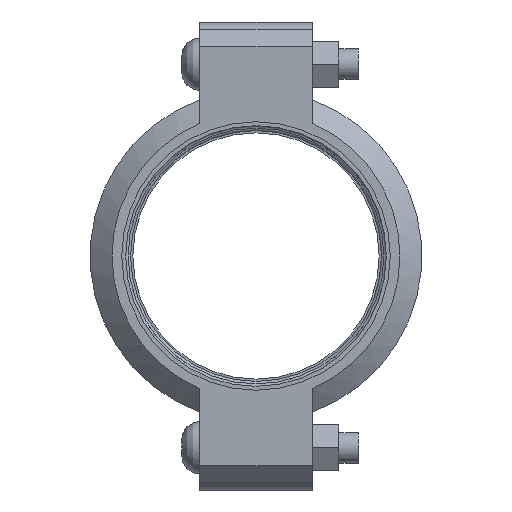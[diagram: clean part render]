
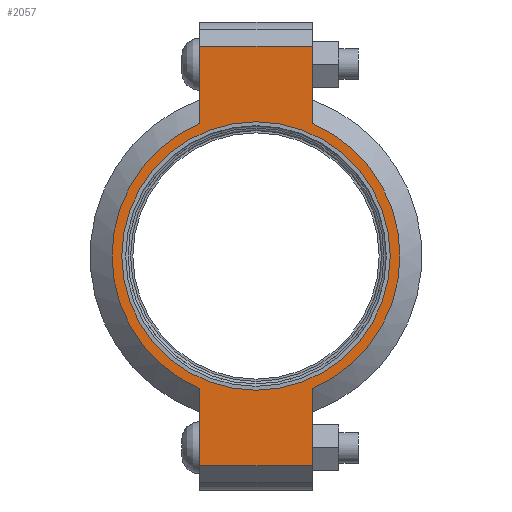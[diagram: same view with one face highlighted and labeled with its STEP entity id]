
A CAD part, left-side view. The second image highlights one B-rep face of the part: STEP entity #2057.
In plain terms, the highlighted planar face has unit normal (-1, 0, 0) as drawn and (0, 0, 1) by its records, which use the part's own axes.
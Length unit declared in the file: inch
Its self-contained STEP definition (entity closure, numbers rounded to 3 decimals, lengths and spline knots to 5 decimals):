
#190=LINE('',#3668,#289);
#198=LINE('',#3704,#297);
#205=LINE('',#3725,#304);
#214=LINE('',#3757,#313);
#215=LINE('',#3761,#314);
#216=LINE('',#3763,#315);
#289=VECTOR('',#3002,0.3937);
#297=VECTOR('',#3018,0.3937);
#304=VECTOR('',#3037,0.3937);
#313=VECTOR('',#3062,0.3937);
#314=VECTOR('',#3067,0.3937);
#315=VECTOR('',#3068,0.3937);
#375=FACE_BOUND('',#645,.T.);
#421=PLANE('',#2422);
#517=FACE_OUTER_BOUND('',#644,.T.);
#644=EDGE_LOOP('',(#1786,#1787,#1788,#1789,#1790,#1791,#1792,#1793));
#645=EDGE_LOOP('',(#1794));
#792=CIRCLE('',#2364,2.75);
#818=CIRCLE('',#2423,2.95);
#819=CIRCLE('',#2424,2.95);
#943=VERTEX_POINT('',#3484);
#986=VERTEX_POINT('',#3665);
#987=VERTEX_POINT('',#3667);
#998=VERTEX_POINT('',#3699);
#999=VERTEX_POINT('',#3703);
#1006=VERTEX_POINT('',#3722);
#1007=VERTEX_POINT('',#3724);
#1017=VERTEX_POINT('',#3760);
#1018=VERTEX_POINT('',#3762);
#1180=EDGE_CURVE('',#943,#943,#792,.T.);
#1241=EDGE_CURVE('',#987,#986,#190,.T.);
#1255=EDGE_CURVE('',#999,#998,#198,.T.);
#1265=EDGE_CURVE('',#1007,#1006,#205,.T.);
#1280=EDGE_CURVE('',#999,#986,#214,.T.);
#1281=EDGE_CURVE('',#998,#1007,#818,.T.);
#1282=EDGE_CURVE('',#1017,#1006,#215,.T.);
#1283=EDGE_CURVE('',#1017,#1018,#216,.T.);
#1284=EDGE_CURVE('',#1018,#987,#819,.T.);
#1786=ORIENTED_EDGE('',*,*,#1280,.F.);
#1787=ORIENTED_EDGE('',*,*,#1255,.T.);
#1788=ORIENTED_EDGE('',*,*,#1281,.T.);
#1789=ORIENTED_EDGE('',*,*,#1265,.T.);
#1790=ORIENTED_EDGE('',*,*,#1282,.F.);
#1791=ORIENTED_EDGE('',*,*,#1283,.T.);
#1792=ORIENTED_EDGE('',*,*,#1284,.T.);
#1793=ORIENTED_EDGE('',*,*,#1241,.T.);
#1794=ORIENTED_EDGE('',*,*,#1180,.T.);
#2057=ADVANCED_FACE('',(#517,#375),#421,.T.);
#2364=AXIS2_PLACEMENT_3D('',#3486,#2878,#2879);
#2422=AXIS2_PLACEMENT_3D('',#3758,#3063,#3064);
#2423=AXIS2_PLACEMENT_3D('',#3759,#3065,#3066);
#2424=AXIS2_PLACEMENT_3D('',#3764,#3069,#3070);
#2878=DIRECTION('center_axis',(0.,0.,-1.));
#2879=DIRECTION('ref_axis',(1.,0.,0.));
#3002=DIRECTION('',(1.,0.,0.));
#3018=DIRECTION('',(-1.,0.,0.));
#3037=DIRECTION('',(-1.,0.,0.));
#3062=DIRECTION('',(0.,-1.,0.));
#3063=DIRECTION('center_axis',(0.,0.,1.));
#3064=DIRECTION('ref_axis',(-1.,0.,0.));
#3065=DIRECTION('center_axis',(0.,0.,1.));
#3066=DIRECTION('ref_axis',(1.,0.,0.));
#3067=DIRECTION('',(0.,1.,0.));
#3068=DIRECTION('',(1.,0.,0.));
#3069=DIRECTION('center_axis',(0.,0.,1.));
#3070=DIRECTION('ref_axis',(1.,0.,0.));
#3484=CARTESIAN_POINT('',(-2.75,0.,1.065));
#3486=CARTESIAN_POINT('Origin',(0.,0.,1.065));
#3665=CARTESIAN_POINT('',(4.295,-1.15,1.065));
#3667=CARTESIAN_POINT('',(2.71662,-1.15,1.065));
#3668=CARTESIAN_POINT('',(4.795,-1.15,1.065));
#3699=CARTESIAN_POINT('',(2.71662,1.15,1.065));
#3703=CARTESIAN_POINT('',(4.295,1.15,1.065));
#3704=CARTESIAN_POINT('',(-4.795,1.15,1.065));
#3722=CARTESIAN_POINT('',(-4.295,1.15,1.065));
#3724=CARTESIAN_POINT('',(-2.71662,1.15,1.065));
#3725=CARTESIAN_POINT('',(-4.795,1.15,1.065));
#3757=CARTESIAN_POINT('',(4.295,-0.575,1.065));
#3758=CARTESIAN_POINT('Origin',(0.,0.,
1.065));
#3759=CARTESIAN_POINT('Origin',(0.,0.,1.065));
#3760=CARTESIAN_POINT('',(-4.295,-1.15,1.065));
#3761=CARTESIAN_POINT('',(-4.295,0.575,1.065));
#3762=CARTESIAN_POINT('',(-2.71662,-1.15,1.065));
#3763=CARTESIAN_POINT('',(4.795,-1.15,1.065));
#3764=CARTESIAN_POINT('Origin',(0.,0.,1.065));
